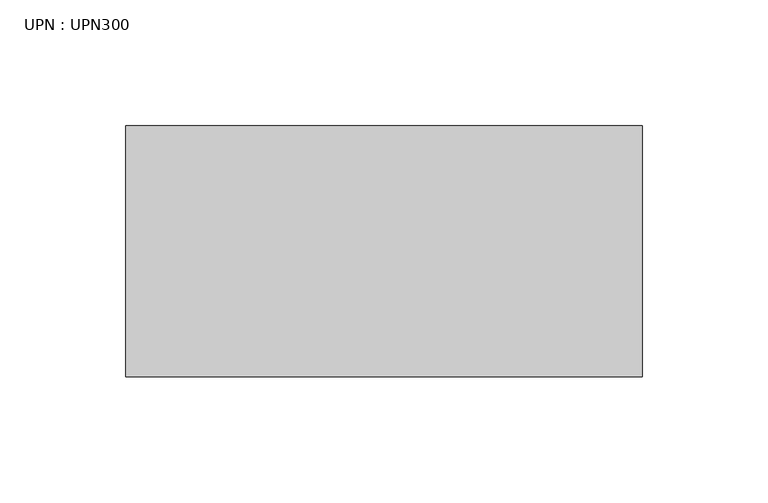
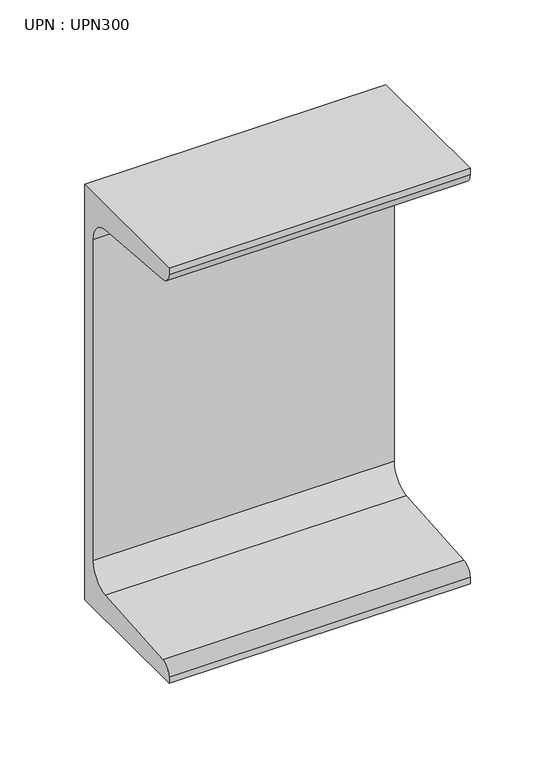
"""IFC4 building model written with IfcOpenShell, lengths in millimetres: beam geometry, UPN : UPN300."""

from ifc_helpers import new_model, si_unit, point, frame, frame_2d, origin, place, context, project, spatial, polyline, circle_curve, trimmed, segment, composite_curve, outline, extrude, source, transform, mapped, element, save


def upn_upn300_dfaff964(model_context):
    return source(origin(), model_context, "Body", "SweptSolid", [
        extrude(outline(composite_curve([segment(polyline([(27.0, 150.0), (27.0, -150.0), (-73.0, -150.0), (-73.0, -145.3826224)]), True, "CONTINUOUS"), segment(trimmed(circle_curve(frame_2d((-65.0, -145.3826224)), 8.0), [point((-73.0, -145.3826224))], [point((-65.637416, -137.4080566))], False, "CARTESIAN"), True, "CONTINUOUS"), segment(polyline([(-65.637416, -137.4080566), (2.274832, -131.9797543)]), True, "CONTINUOUS"), segment(trimmed(circle_curve(frame_2d((1.0, -116.0306225)), 16.0), [point((2.274832, -131.9797543))], [point((17.0, -116.0306225))], True, "CARTESIAN"), True, "CONTINUOUS"), segment(polyline([(17.0, -116.0306225), (17.0, 116.0306225)]), True, "CONTINUOUS"), segment(trimmed(circle_curve(frame_2d((1.0, 116.0306225)), 16.0), [point((17.0, 116.0306225))], [point((2.274832, 131.9797543))], True, "CARTESIAN"), True, "CONTINUOUS"), segment(polyline([(2.274832, 131.9797543), (-65.637416, 137.4080566)]), True, "CONTINUOUS"), segment(trimmed(circle_curve(frame_2d((-65.0, 145.3826224)), 8.0), [point((-65.637416, 137.4080566))], [point((-73.0, 145.3826224))], False, "CARTESIAN"), True, "CONTINUOUS"), segment(polyline([(-73.0, 145.3826224), (-73.0, 150.0), (27.0, 150.0)]), True, "CONTINUOUS")], self_intersect=False)), frame((-102.85, 0.0, 0.0), z_axis=(1.0, 0.0, 0.0), x_axis=(0.0, 1.0, 0.0)), (0.0, 0.0, 1.0), 205.7),
    ])


if __name__ == "__main__":
    model = new_model("IFC4")
    model_context = context("Model", 3, world=origin())
    ifc_project = project(units=[si_unit("LENGTHUNIT", "METRE", prefix="MILLI")], contexts=[model_context])
    site = spatial("IfcSite", under=ifc_project)
    building = spatial("IfcBuilding", under=site)
    placement = place(None, origin())
    upn_upn300_shape = upn_upn300_dfaff964(model_context)
    element("IfcBeam", 1, ObjectType="UPN : UPN300", at=placement, inside=building, context=model_context, shape_type="MappedRepresentation", body=[
        mapped(upn_upn300_shape, transform((0.0, 0.0, 0.0), x_axis=(1.0, 0.0, 0.0), y_axis=(0.0, 1.0, 0.0), z_axis=(0.0, 0.0, 1.0))),
    ])
    save(model, "model.ifc")
